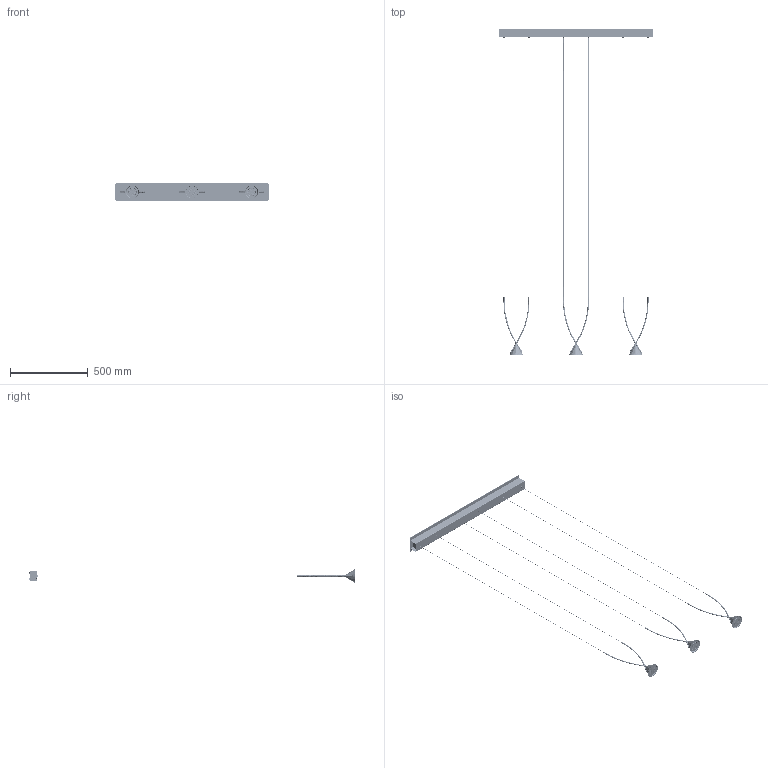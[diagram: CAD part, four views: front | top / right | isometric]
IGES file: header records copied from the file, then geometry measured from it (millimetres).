
Start section: SolidWorks IGES file using analytic representation for surfaces
Global section: file name: \\STORAGE\Tecnico Condiviso\1 FASCICOLI TECNICI\AXO DESIGN\AXO053-JEWEL\ETL\USJEWEL3XXXXLED\USJEWEL3XXXXLED-PER 3D\USJEWEL3XXXXLED-PER 3D.IGS; native system: SolidWorks 2018; preprocessor: SolidWorks 2018; author: tecnico3; date: 180911.105637; units: millimetre
Bounding box: 990 x 2097.46 x 110 mm (x, y, z)
Surface area: 925555.9 mm2 (no closed solid volume)
Topology: 0 solids, 0 shells, 11222 faces, 97788 edges, 97378 vertices
Faces by surface type: bspline 6242, revolution 4980
